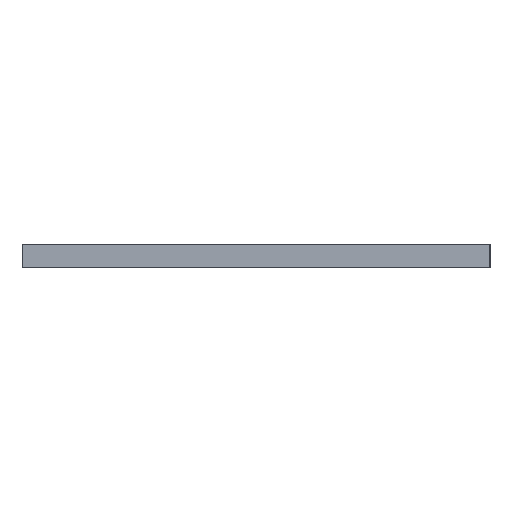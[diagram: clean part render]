
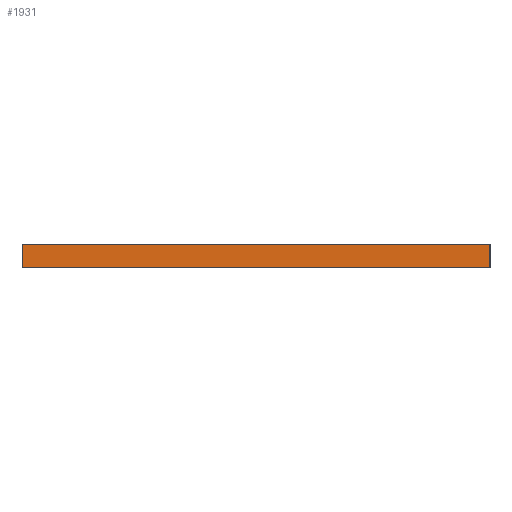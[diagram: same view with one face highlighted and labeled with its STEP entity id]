
A CAD part, left-side view. The second image highlights one B-rep face of the part: STEP entity #1931.
In plain terms, the highlighted planar face has unit normal (-1, 0, 0).
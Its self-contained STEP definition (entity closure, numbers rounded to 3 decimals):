
#289 = CARTESIAN_POINT ( 'NONE',  ( -20., -20., 2. ) ) ;
#563 = VERTEX_POINT ( 'NONE', #4553 ) ;
#570 = VERTEX_POINT ( 'NONE', #4560 ) ;
#585 = VERTEX_POINT ( 'NONE', #4556 ) ;
#640 = VERTEX_POINT ( 'NONE', #289 ) ;
#1106 = ORIENTED_EDGE ( 'NONE', *, *, #3388, .F. ) ;
#1124 = ORIENTED_EDGE ( 'NONE', *, *, #3392, .T. ) ;
#1130 = ORIENTED_EDGE ( 'NONE', *, *, #3405, .F. ) ;
#1146 = ORIENTED_EDGE ( 'NONE', *, *, #3376, .T. ) ;
#1772 = FACE_OUTER_BOUND ( 'NONE', #5433, .T. ) ;
#1931 = ADVANCED_FACE ( 'NONE', ( #1772 ), #5111, .F. ) ;
#2130 = CARTESIAN_POINT ( 'NONE',  ( -20., 20., 0. ) ) ;
#2136 = DIRECTION ( 'NONE',  ( 0., -1., 0. ) ) ;
#2219 = DIRECTION ( 'NONE',  ( 0., 0., -1. ) ) ;
#2241 = CARTESIAN_POINT ( 'NONE',  ( -20., -20., 2. ) ) ;
#2272 = DIRECTION ( 'NONE',  ( 0., 0., -1. ) ) ;
#2281 = CARTESIAN_POINT ( 'NONE',  ( -20., 20., 2. ) ) ;
#2306 = CARTESIAN_POINT ( 'NONE',  ( -20., 20., 2. ) ) ;
#2354 = DIRECTION ( 'NONE',  ( 0., -1., 0. ) ) ;
#2374 = LINE ( 'NONE', #2241, #2386 ) ;
#2385 = VECTOR ( 'NONE', #2136, 1000. ) ;
#2386 = VECTOR ( 'NONE', #2219, 1000. ) ;
#2424 = LINE ( 'NONE', #2306, #2429 ) ;
#2429 = VECTOR ( 'NONE', #2272, 1000. ) ;
#2470 = LINE ( 'NONE', #2130, #2385 ) ;
#2819 = VECTOR ( 'NONE', #2354, 1000. ) ;
#2824 = LINE ( 'NONE', #2281, #2819 ) ;
#3376 = EDGE_CURVE ( 'NONE', #585, #563, #2470, .T. ) ;
#3388 = EDGE_CURVE ( 'NONE', #640, #563, #2374, .T. ) ;
#3392 = EDGE_CURVE ( 'NONE', #570, #585, #2424, .T. ) ;
#3405 = EDGE_CURVE ( 'NONE', #570, #640, #2824, .T. ) ;
#4553 = CARTESIAN_POINT ( 'NONE',  ( -20., -20., 0. ) ) ;
#4556 = CARTESIAN_POINT ( 'NONE',  ( -20., 20., 0. ) ) ;
#4560 = CARTESIAN_POINT ( 'NONE',  ( -20., 20., 2. ) ) ;
#5098 = DIRECTION ( 'NONE',  ( 1., 0., 0. ) ) ;
#5110 = CARTESIAN_POINT ( 'NONE',  ( -20., 20., 2. ) ) ;
#5111 = PLANE ( 'NONE',  #5698 ) ;
#5127 = DIRECTION ( 'NONE',  ( 0., 1., 0. ) ) ;
#5433 = EDGE_LOOP ( 'NONE', ( #1146, #1106, #1130, #1124 ) ) ;
#5698 = AXIS2_PLACEMENT_3D ( 'NONE', #5110, #5098, #5127 ) ;
